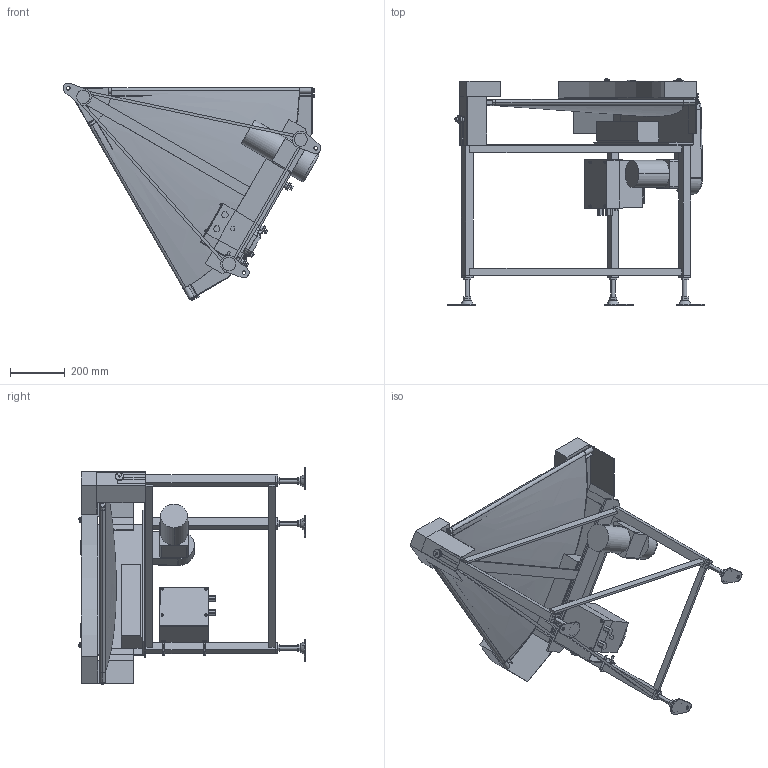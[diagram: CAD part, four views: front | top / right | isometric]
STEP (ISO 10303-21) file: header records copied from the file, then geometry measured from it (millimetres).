
FILE_DESCRIPTION (( 'STEP AP214' ), '1' );
FILE_NAME ('GFBC60-UD600-R.STEP', '2024-01-18T02:29:12', ( '' ), ( '' ), 'SwSTEP 2.0', 'SolidWorks 2017', '' );
FILE_SCHEMA (( 'AUTOMOTIVE_DESIGN' ));
Length unit declared in the file: millimetre
Products named in the file (1): GFBC60-UD600-R
Bounding box: 942.61 x 827.92 x 796.18 mm (x, y, z)
Volume: 22063639.2 mm3; surface area: 4451816.1 mm2
Topology: 54 solids, 55 shells, 1120 faces, 2614 edges, 1682 vertices
Faces by surface type: plane 703, cylinder 316, cone 45, bspline 44, torus 8, sphere 4
Entity records: 40036 total; most frequent: CARTESIAN_POINT 13769, DIRECTION 5257, ORIENTED_EDGE 5196, EDGE_CURVE 2598, AXIS2_PLACEMENT_3D 1791, VERTEX_POINT 1682, LINE 1675, VECTOR 1675
